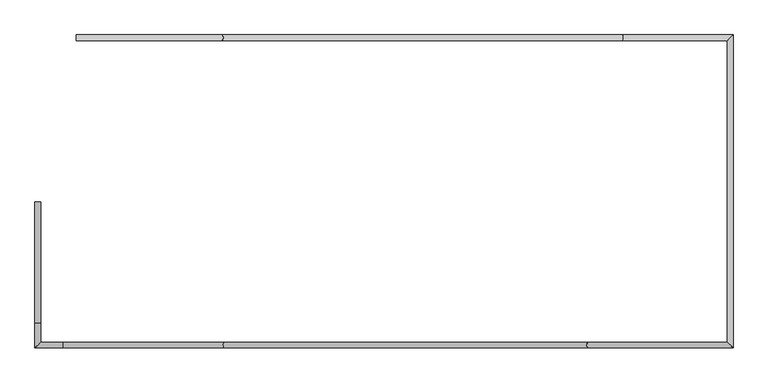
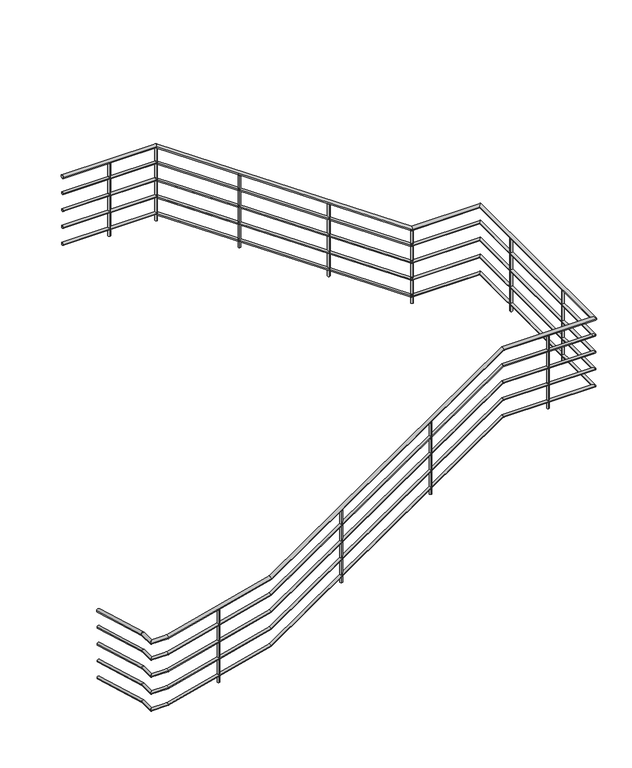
"""IFC4 building model written with IfcOpenShell, lengths in millimetres: railing geometry, r パイプ H900."""

from ifc_helpers import new_model, si_unit, point, frame, frame_2d, origin, place, context, project, spatial, circle_curve, ellipse_curve, trimmed, segment, composite_curve, outline, extrude, source, transform, mapped, element, save
from ifc_brep_helpers import plane_surface, cylinder_surface, advanced_brep


def railing_7acc2935(model_context):
    return source(origin(), model_context, "Body", "SolidModel", [
        advanced_brep(
        [(-3200.9784025, 14849.6868987, 1159.2096895), (-3240.9784025, 14849.6868987, 1159.2096895), (-3200.9784025, 13983.2318837, 1405.1860651), (-3240.9784025, 13983.2318837, 1405.1860651), (-3200.9784025, 13844.6868987, 1405.1860651), (-3240.9784025, 13804.6868987, 1405.1860651), (-3040.287411, 13844.6868987, 1405.1860651), (-3040.287411, 13804.6868987, 1405.1860651), (-1887.5349177, 13844.6868987, 1701.5202767), (-1887.5349177, 13804.6868987, 1701.5202767), (710.2691271, 13844.6868987, 3500.0), (710.2691271, 13804.6868987, 3500.0), (1709.0215975, 13844.6868987, 3500.0), (1749.0215975, 13804.6868987, 3500.0), (1709.0215975, 16004.6868987, 3500.0), (1749.0215975, 16044.6868987, 3500.0), (957.7740679, 16004.6868987, 3500.0), (957.7740679, 16044.6868987, 3500.0), (-1902.2259321, 16004.6868987, 5480.0), (-1902.2259321, 16044.6868987, 5480.0), (-2945.9784025, 16004.6868987, 5480.0), (-2945.9784025, 16044.6868987, 5480.0)],
        [
            (0, 1, ellipse_curve(frame((-3220.9784025, 14849.6868987, 1159.2096895), z_axis=(0.0, 1.0, 0.0), x_axis=(0.0, 0.0, -0.9999999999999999)), 20.7903105, 20.0)),
            (1, 0, ellipse_curve(frame((-3220.9784025, 14849.6868987, 1159.2096895), z_axis=(0.0, 1.0, 0.0), x_axis=(0.0, 0.0, -0.9999999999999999)), 20.7903105, 20.0)),
            (0, 2),
            (2, 3, ellipse_curve(frame((-3220.9784025, 13983.2318837, 1405.1860651), z_axis=(0.0, 0.9904510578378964, -0.1378647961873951), x_axis=(0.0, -0.1378647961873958, -0.9904510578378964)), 20.1928201, 20.0)),
            (3, 1),
            (3, 2, ellipse_curve(frame((-3220.9784025, 13983.2318837, 1405.1860651), z_axis=(0.0, 0.9904510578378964, -0.1378647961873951), x_axis=(0.0, -0.1378647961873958, -0.9904510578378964)), 20.1928201, 20.0)),
            (2, 4),
            (4, 5, ellipse_curve(frame((-3220.9784025, 13824.6868987, 1405.1860651), z_axis=(-0.7071067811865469, 0.7071067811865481, 0.0), x_axis=(0.7071067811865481, 0.7071067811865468, 0.0)), 28.2842712, 20.0)),
            (5, 3),
            (5, 4, ellipse_curve(frame((-3220.9784025, 13824.6868987, 1405.1860651), z_axis=(-0.7071067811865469, 0.7071067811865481, 0.0), x_axis=(0.7071067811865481, 0.7071067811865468, 0.0)), 28.2842712, 20.0)),
            (4, 6),
            (6, 7, ellipse_curve(frame((-3040.287411, 13824.6868987, 1405.1860651), z_axis=(-0.9920964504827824, 0.0, -0.12547761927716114), x_axis=(-0.12547761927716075, 0.0, 0.9920964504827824)), 20.1593303, 20.0)),
            (7, 5),
            (7, 6, ellipse_curve(frame((-3040.287411, 13824.6868987, 1405.1860651), z_axis=(-0.9920964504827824, 0.0, -0.12547761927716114), x_axis=(-0.12547761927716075, 0.0, 0.9920964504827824)), 20.1593303, 20.0)),
            (6, 8),
            (8, 9, ellipse_curve(frame((-1887.5349177, 13824.6868987, 1701.5202767), z_axis=(-0.9095561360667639, 0.0, -0.41558108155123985), x_axis=(-0.415581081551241, 0.0, 0.9095561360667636)), 20.3172983, 20.0)),
            (9, 7),
            (9, 8, ellipse_curve(frame((-1887.5349177, 13824.6868987, 1701.5202767), z_axis=(-0.9095561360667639, 0.0, -0.41558108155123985), x_axis=(-0.415581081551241, 0.0, 0.9095561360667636)), 20.3172983, 20.0)),
            (8, 10),
            (10, 11, ellipse_curve(frame((710.2691271, 13824.6868987, 3500.0), z_axis=(-0.9545135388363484, 0.0, -0.29816757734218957), x_axis=(0.2981675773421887, 0.0, -0.9545135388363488)), 20.9530815, 20.0)),
            (11, 9),
            (11, 10, ellipse_curve(frame((710.2691271, 13824.6868987, 3500.0), z_axis=(-0.9545135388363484, 0.0, -0.29816757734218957), x_axis=(0.2981675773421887, 0.0, -0.9545135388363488)), 20.9530815, 20.0)),
            (10, 12),
            (12, 13, ellipse_curve(frame((1729.0215975, 13824.6868987, 3500.0), z_axis=(-0.7071067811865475, -0.7071067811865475, 0.0), x_axis=(-0.7071067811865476, 0.7071067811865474, 0.0)), 28.2842712, 20.0)),
            (13, 11),
            (13, 12, ellipse_curve(frame((1729.0215975, 13824.6868987, 3500.0), z_axis=(-0.7071067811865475, -0.7071067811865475, 0.0), x_axis=(-0.7071067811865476, 0.7071067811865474, 0.0)), 28.2842712, 20.0)),
            (12, 14),
            (14, 15, ellipse_curve(frame((1729.0215975, 16024.6868987, 3500.0), z_axis=(0.7071067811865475, -0.7071067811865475, 0.0), x_axis=(-0.7071067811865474, -0.7071067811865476, 0.0)), 28.2842712, 20.0)),
            (15, 13),
            (15, 14, ellipse_curve(frame((1729.0215975, 16024.6868987, 3500.0), z_axis=(0.7071067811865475, -0.7071067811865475, 0.0), x_axis=(-0.7071067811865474, -0.7071067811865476, 0.0)), 28.2842712, 20.0)),
            (14, 16),
            (16, 17, ellipse_curve(frame((957.7740679, 16024.6868987, 3500.0), z_axis=(0.9545135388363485, 0.0, -0.29816757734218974), x_axis=(0.2981675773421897, 0.0, 0.9545135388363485)), 20.9530815, 20.0)),
            (17, 15),
            (17, 16, ellipse_curve(frame((957.7740679, 16024.6868987, 3500.0), z_axis=(0.9545135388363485, 0.0, -0.29816757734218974), x_axis=(0.2981675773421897, 0.0, 0.9545135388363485)), 20.9530815, 20.0)),
            (16, 18),
            (18, 19, ellipse_curve(frame((-1902.2259321, 16024.6868987, 5480.0), z_axis=(0.9545135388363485, 0.0, -0.29816757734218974), x_axis=(-0.2981675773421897, 0.0, -0.9545135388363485)), 20.9530815, 20.0)),
            (19, 17),
            (19, 18, ellipse_curve(frame((-1902.2259321, 16024.6868987, 5480.0), z_axis=(0.9545135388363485, 0.0, -0.29816757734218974), x_axis=(-0.2981675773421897, 0.0, -0.9545135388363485)), 20.9530815, 20.0)),
            (20, 21, circle_curve(frame((-2945.9784025, 16024.6868987, 5480.0), z_axis=(-1.0, 0.0, 0.0), x_axis=(0.0, 1.0, 0.0)), 20.0)),
            (21, 20, circle_curve(frame((-2945.9784025, 16024.6868987, 5480.0), z_axis=(-1.0, 0.0, 0.0), x_axis=(0.0, 1.0, 0.0)), 20.0)),
            (18, 20),
            (21, 19),
        ],
        [
            plane_surface(frame((-3220.9784025, 14849.6868987, 1180.0), z_axis=(0.0, 1.0, 0.0), x_axis=(0.0, 0.0, -1.0))),
            cylinder_surface(frame((-3220.9784025, 14844.2249654, 1160.7602681), z_axis=(0.0, 0.961986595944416, -0.27309666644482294), x_axis=(-1.0, 0.0, 0.0)), 20.0),
            cylinder_surface(frame((-3220.9784025, 13986.0157627, 1405.1860651), z_axis=(0.0, 1.0, 0.0), x_axis=(-1.0, 0.0, 0.0)), 20.0),
            cylinder_surface(frame((-3220.9784025, 13824.6868987, 1405.1860651), z_axis=(-1.0, 0.0, 0.0), x_axis=(0.0, -1.0, 0.0)), 20.0),
            cylinder_surface(frame((-3037.8375197, 13824.6868987, 1405.8158504), z_axis=(-0.9685107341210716, 0.0, -0.24897180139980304), x_axis=(0.0, -1.0, 0.0)), 20.0),
            cylinder_surface(frame((-1884.5942029, 13824.6868987, 1703.5561562), z_axis=(-0.8221921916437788, 0.0, -0.5692099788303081), x_axis=(0.0, -1.0, 0.0)), 20.0),
            cylinder_surface(frame((704.0215975, 13824.6868987, 3500.0), z_axis=(-1.0, 0.0, 0.0), x_axis=(0.0, -1.0, 0.0)), 20.0),
            cylinder_surface(frame((1729.0215975, 13824.6868987, 3500.0), z_axis=(0.0, -1.0, 0.0), x_axis=(1.0, 0.0, 0.0)), 20.0),
            cylinder_surface(frame((1729.0215975, 16024.6868987, 3500.0), z_axis=(1.0, 0.0, 0.0), x_axis=(0.0, 1.0, 0.0)), 20.0),
            cylinder_surface(frame((952.6373979, 16024.6868987, 3503.5561562), z_axis=(0.8221921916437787, 0.0, -0.5692099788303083), x_axis=(0.0, 1.0, 0.0)), 20.0),
            plane_surface(frame((-2945.9784025, 16024.6868987, 5500.0), z_axis=(-1.0, 0.0, 0.0), x_axis=(0.0, -1.0, 0.0))),
            cylinder_surface(frame((-1895.9784025, 16024.6868987, 5480.0), z_axis=(1.0, 0.0, 0.0), x_axis=(0.0, 1.0, 0.0)), 20.0),
        ],
        [
            (0, [[1, 2]]),
            (1, [[-1, 3, 4, 5]]),
            (1, [[-2, -5, 6, -3]]),
            (2, [[-4, 7, 8, 9]]),
            (2, [[-6, -9, 10, -7]]),
            (3, [[-8, 11, 12, 13]]),
            (3, [[-10, -13, 14, -11]]),
            (4, [[-12, 15, 16, 17]]),
            (4, [[-14, -17, 18, -15]]),
            (5, [[-16, 19, 20, 21]]),
            (5, [[-18, -21, 22, -19]]),
            (6, [[-20, 23, 24, 25]]),
            (6, [[-22, -25, 26, -23]]),
            (7, [[-24, 27, 28, 29]]),
            (7, [[-26, -29, 30, -27]]),
            (8, [[-28, 31, 32, 33]]),
            (8, [[-30, -33, 34, -31]]),
            (9, [[-32, 35, 36, 37]]),
            (9, [[-34, -37, 38, -35]]),
            (10, [[39, 40]]),
            (11, [[-36, 41, -40, 42]]),
            (11, [[-38, -42, -39, -41]]),
        ],
    ),
        advanced_brep(
        [(-3205.9784025, 14849.6868987, 964.4072671), (-3235.9784025, 14849.6868987, 964.4072671), (-3205.9784025, 13983.9278534, 1210.1860651), (-3235.9784025, 13983.9278534, 1210.1860651), (-3205.9784025, 13839.6868987, 1210.1860651), (-3235.9784025, 13809.6868987, 1210.1860651), (-3040.9197972, 13839.6868987, 1210.1860651), (-3040.9197972, 13809.6868987, 1210.1860651), (-1889.6457889, 13839.6868987, 1506.1402075), (-1889.6457889, 13809.6868987, 1506.1402075), (708.7072447, 13839.6868987, 3305.0), (708.7072447, 13809.6868987, 3305.0), (1714.0215975, 13839.6868987, 3305.0), (1744.0215975, 13809.6868987, 3305.0), (1714.0215975, 16009.6868987, 3305.0), (1744.0215975, 16039.6868987, 3305.0), (959.3359503, 16009.6868987, 3305.0), (959.3359503, 16039.6868987, 3305.0), (-1900.6640497, 16009.6868987, 5285.0), (-1900.6640497, 16039.6868987, 5285.0), (-2945.9784025, 16009.6868987, 5285.0), (-2945.9784025, 16039.6868987, 5285.0)],
        [
            (0, 1, ellipse_curve(frame((-3220.9784025, 14849.6868987, 964.4072671), z_axis=(0.0, 1.0, 0.0), x_axis=(0.0, 0.0, -0.9999999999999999)), 15.5927329, 15.0)),
            (1, 0, ellipse_curve(frame((-3220.9784025, 14849.6868987, 964.4072671), z_axis=(0.0, 1.0, 0.0), x_axis=(0.0, 0.0, -0.9999999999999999)), 15.5927329, 15.0)),
            (0, 2),
            (2, 3, ellipse_curve(frame((-3220.9784025, 13983.9278534, 1210.1860651), z_axis=(0.0, 0.9904510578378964, -0.1378647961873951), x_axis=(0.0, -0.1378647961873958, -0.9904510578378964)), 15.1446151, 15.0)),
            (3, 1),
            (3, 2, ellipse_curve(frame((-3220.9784025, 13983.9278534, 1210.1860651), z_axis=(0.0, 0.9904510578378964, -0.1378647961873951), x_axis=(0.0, -0.1378647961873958, -0.9904510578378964)), 15.1446151, 15.0)),
            (2, 4),
            (4, 5, ellipse_curve(frame((-3220.9784025, 13824.6868987, 1210.1860651), z_axis=(-0.7071067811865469, 0.7071067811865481, 0.0), x_axis=(0.7071067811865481, 0.7071067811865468, 0.0)), 21.2132034, 15.0)),
            (5, 3),
            (5, 4, ellipse_curve(frame((-3220.9784025, 13824.6868987, 1210.1860651), z_axis=(-0.7071067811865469, 0.7071067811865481, 0.0), x_axis=(0.7071067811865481, 0.7071067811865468, 0.0)), 21.2132034, 15.0)),
            (4, 6),
            (6, 7, ellipse_curve(frame((-3040.9197972, 13824.6868987, 1210.1860651), z_axis=(-0.9920964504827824, 0.0, -0.12547761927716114), x_axis=(-0.12547761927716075, 0.0, 0.9920964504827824)), 15.1194977, 15.0)),
            (7, 5),
            (7, 6, ellipse_curve(frame((-3040.9197972, 13824.6868987, 1210.1860651), z_axis=(-0.9920964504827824, 0.0, -0.12547761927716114), x_axis=(-0.12547761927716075, 0.0, 0.9920964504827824)), 15.1194977, 15.0)),
            (6, 8),
            (8, 9, ellipse_curve(frame((-1889.6457889, 13824.6868987, 1506.1402075), z_axis=(-0.9095561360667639, 0.0, -0.41558108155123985), x_axis=(-0.415581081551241, 0.0, 0.9095561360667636)), 15.2379737, 15.0)),
            (9, 7),
            (9, 8, ellipse_curve(frame((-1889.6457889, 13824.6868987, 1506.1402075), z_axis=(-0.9095561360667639, 0.0, -0.41558108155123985), x_axis=(-0.415581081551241, 0.0, 0.9095561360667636)), 15.2379737, 15.0)),
            (8, 10),
            (10, 11, ellipse_curve(frame((708.7072447, 13824.6868987, 3305.0), z_axis=(-0.9545135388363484, 0.0, -0.29816757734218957), x_axis=(0.2981675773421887, 0.0, -0.9545135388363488)), 15.7148111, 15.0)),
            (11, 9),
            (11, 10, ellipse_curve(frame((708.7072447, 13824.6868987, 3305.0), z_axis=(-0.9545135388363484, 0.0, -0.29816757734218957), x_axis=(0.2981675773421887, 0.0, -0.9545135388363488)), 15.7148111, 15.0)),
            (10, 12),
            (12, 13, ellipse_curve(frame((1729.0215975, 13824.6868987, 3305.0), z_axis=(-0.7071067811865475, -0.7071067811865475, 0.0), x_axis=(-0.7071067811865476, 0.7071067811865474, 0.0)), 21.2132034, 15.0)),
            (13, 11),
            (13, 12, ellipse_curve(frame((1729.0215975, 13824.6868987, 3305.0), z_axis=(-0.7071067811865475, -0.7071067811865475, 0.0), x_axis=(-0.7071067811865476, 0.7071067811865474, 0.0)), 21.2132034, 15.0)),
            (12, 14),
            (14, 15, ellipse_curve(frame((1729.0215975, 16024.6868987, 3305.0), z_axis=(0.7071067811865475, -0.7071067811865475, 0.0), x_axis=(-0.7071067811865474, -0.7071067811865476, 0.0)), 21.2132034, 15.0)),
            (15, 13),
            (15, 14, ellipse_curve(frame((1729.0215975, 16024.6868987, 3305.0), z_axis=(0.7071067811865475, -0.7071067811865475, 0.0), x_axis=(-0.7071067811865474, -0.7071067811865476, 0.0)), 21.2132034, 15.0)),
            (14, 16),
            (16, 17, ellipse_curve(frame((959.3359503, 16024.6868987, 3305.0), z_axis=(0.9545135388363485, 0.0, -0.29816757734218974), x_axis=(0.2981675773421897, 0.0, 0.9545135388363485)), 15.7148111, 15.0)),
            (17, 15),
            (17, 16, ellipse_curve(frame((959.3359503, 16024.6868987, 3305.0), z_axis=(0.9545135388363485, 0.0, -0.29816757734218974), x_axis=(0.2981675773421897, 0.0, 0.9545135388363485)), 15.7148111, 15.0)),
            (16, 18),
            (18, 19, ellipse_curve(frame((-1900.6640497, 16024.6868987, 5285.0), z_axis=(0.9545135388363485, 0.0, -0.29816757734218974), x_axis=(-0.2981675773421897, 0.0, -0.9545135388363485)), 15.7148111, 15.0)),
            (19, 17),
            (19, 18, ellipse_curve(frame((-1900.6640497, 16024.6868987, 5285.0), z_axis=(0.9545135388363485, 0.0, -0.29816757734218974), x_axis=(-0.2981675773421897, 0.0, -0.9545135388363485)), 15.7148111, 15.0)),
            (20, 21, circle_curve(frame((-2945.9784025, 16024.6868987, 5285.0), z_axis=(-1.0, 0.0, 0.0), x_axis=(0.0, 1.0, 0.0)), 15.0)),
            (21, 20, circle_curve(frame((-2945.9784025, 16024.6868987, 5285.0), z_axis=(-1.0, 0.0, 0.0), x_axis=(0.0, 1.0, 0.0)), 15.0)),
            (18, 20),
            (21, 19),
        ],
        [
            plane_surface(frame((-3220.9784025, 14849.6868987, 980.0), z_axis=(0.0, 1.0, 0.0), x_axis=(0.0, 0.0, -1.0))),
            cylinder_surface(frame((-3220.9784025, 14845.5904487, 965.5702011), z_axis=(0.0, 0.961986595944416, -0.27309666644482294), x_axis=(-1.0, 0.0, 0.0)), 15.0),
            cylinder_surface(frame((-3220.9784025, 13986.0157627, 1210.1860651), z_axis=(0.0, 1.0, 0.0), x_axis=(-1.0, 0.0, 0.0)), 15.0),
            cylinder_surface(frame((-3220.9784025, 13824.6868987, 1210.1860651), z_axis=(-1.0, 0.0, 0.0), x_axis=(0.0, -1.0, 0.0)), 15.0),
            cylinder_surface(frame((-3039.0823787, 13824.6868987, 1210.6584041), z_axis=(-0.9685107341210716, 0.0, -0.24897180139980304), x_axis=(0.0, -1.0, 0.0)), 15.0),
            cylinder_surface(frame((-1887.4402528, 13824.6868987, 1507.6671171), z_axis=(-0.8221921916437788, 0.0, -0.5692099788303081), x_axis=(0.0, -1.0, 0.0)), 15.0),
            cylinder_surface(frame((704.0215975, 13824.6868987, 3305.0), z_axis=(-1.0, 0.0, 0.0), x_axis=(0.0, -1.0, 0.0)), 15.0),
            cylinder_surface(frame((1729.0215975, 13824.6868987, 3305.0), z_axis=(0.0, -1.0, 0.0), x_axis=(1.0, 0.0, 0.0)), 15.0),
            cylinder_surface(frame((1729.0215975, 16024.6868987, 3305.0), z_axis=(1.0, 0.0, 0.0), x_axis=(0.0, 1.0, 0.0)), 15.0),
            cylinder_surface(frame((955.4834478, 16024.6868987, 3307.6671171), z_axis=(0.8221921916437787, 0.0, -0.5692099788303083), x_axis=(0.0, 1.0, 0.0)), 15.0),
            plane_surface(frame((-2945.9784025, 16024.6868987, 5300.0), z_axis=(-1.0, 0.0, 0.0), x_axis=(0.0, -1.0, 0.0))),
            cylinder_surface(frame((-1895.9784025, 16024.6868987, 5285.0), z_axis=(1.0, 0.0, 0.0), x_axis=(0.0, 1.0, 0.0)), 15.0),
        ],
        [
            (0, [[1, 2]]),
            (1, [[-1, 3, 4, 5]]),
            (1, [[-2, -5, 6, -3]]),
            (2, [[-4, 7, 8, 9]]),
            (2, [[-6, -9, 10, -7]]),
            (3, [[-8, 11, 12, 13]]),
            (3, [[-10, -13, 14, -11]]),
            (4, [[-12, 15, 16, 17]]),
            (4, [[-14, -17, 18, -15]]),
            (5, [[-16, 19, 20, 21]]),
            (5, [[-18, -21, 22, -19]]),
            (6, [[-20, 23, 24, 25]]),
            (6, [[-22, -25, 26, -23]]),
            (7, [[-24, 27, 28, 29]]),
            (7, [[-26, -29, 30, -27]]),
            (8, [[-28, 31, 32, 33]]),
            (8, [[-30, -33, 34, -31]]),
            (9, [[-32, 35, 36, 37]]),
            (9, [[-34, -37, 38, -35]]),
            (10, [[39, 40]]),
            (11, [[-36, 41, -40, 42]]),
            (11, [[-38, -42, -39, -41]]),
        ],
    ),
        advanced_brep(
        [(-3205.9784025, 14849.6868987, 764.4072671), (-3235.9784025, 14849.6868987, 764.4072671), (-3205.9784025, 13983.9278534, 1010.1860651), (-3235.9784025, 13983.9278534, 1010.1860651), (-3205.9784025, 13839.6868987, 1010.1860651), (-3235.9784025, 13809.6868987, 1010.1860651), (-3040.9197972, 13839.6868987, 1010.1860651), (-3040.9197972, 13809.6868987, 1010.1860651), (-1889.6457889, 13839.6868987, 1306.1402075), (-1889.6457889, 13809.6868987, 1306.1402075), (708.7072447, 13839.6868987, 3105.0), (708.7072447, 13809.6868987, 3105.0), (1714.0215975, 13839.6868987, 3105.0), (1744.0215975, 13809.6868987, 3105.0), (1714.0215975, 16009.6868987, 3105.0), (1744.0215975, 16039.6868987, 3105.0), (959.3359503, 16009.6868987, 3105.0), (959.3359503, 16039.6868987, 3105.0), (-1900.6640497, 16009.6868987, 5085.0), (-1900.6640497, 16039.6868987, 5085.0), (-2945.9784025, 16009.6868987, 5085.0), (-2945.9784025, 16039.6868987, 5085.0)],
        [
            (0, 1, ellipse_curve(frame((-3220.9784025, 14849.6868987, 764.4072671), z_axis=(0.0, 1.0, 0.0), x_axis=(0.0, 0.0, -1.0)), 15.5927329, 15.0)),
            (1, 0, ellipse_curve(frame((-3220.9784025, 14849.6868987, 764.4072671), z_axis=(0.0, 1.0, 0.0), x_axis=(0.0, 0.0, -1.0)), 15.5927329, 15.0)),
            (0, 2),
            (2, 3, ellipse_curve(frame((-3220.9784025, 13983.9278534, 1010.1860651), z_axis=(0.0, 0.9904510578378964, -0.13786479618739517), x_axis=(0.0, -0.13786479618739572, -0.9904510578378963)), 15.1446151, 15.0)),
            (3, 1),
            (3, 2, ellipse_curve(frame((-3220.9784025, 13983.9278534, 1010.1860651), z_axis=(0.0, 0.9904510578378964, -0.13786479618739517), x_axis=(0.0, -0.13786479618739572, -0.9904510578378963)), 15.1446151, 15.0)),
            (2, 4),
            (4, 5, ellipse_curve(frame((-3220.9784025, 13824.6868987, 1010.1860651), z_axis=(-0.7071067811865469, 0.7071067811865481, 0.0), x_axis=(0.7071067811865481, 0.7071067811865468, 0.0)), 21.2132034, 15.0)),
            (5, 3),
            (5, 4, ellipse_curve(frame((-3220.9784025, 13824.6868987, 1010.1860651), z_axis=(-0.7071067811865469, 0.7071067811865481, 0.0), x_axis=(0.7071067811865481, 0.7071067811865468, 0.0)), 21.2132034, 15.0)),
            (4, 6),
            (6, 7, ellipse_curve(frame((-3040.9197972, 13824.6868987, 1010.1860651), z_axis=(-0.9920964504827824, 0.0, -0.12547761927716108), x_axis=(-0.1254776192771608, 0.0, 0.9920964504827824)), 15.1194977, 15.0)),
            (7, 5),
            (7, 6, ellipse_curve(frame((-3040.9197972, 13824.6868987, 1010.1860651), z_axis=(-0.9920964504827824, 0.0, -0.12547761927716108), x_axis=(-0.1254776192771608, 0.0, 0.9920964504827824)), 15.1194977, 15.0)),
            (6, 8),
            (8, 9, ellipse_curve(frame((-1889.6457889, 13824.6868987, 1306.1402075), z_axis=(-0.9095561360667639, 0.0, -0.41558108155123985), x_axis=(-0.4155810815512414, 0.0, 0.9095561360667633)), 15.2379737, 15.0)),
            (9, 7),
            (9, 8, ellipse_curve(frame((-1889.6457889, 13824.6868987, 1306.1402075), z_axis=(-0.9095561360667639, 0.0, -0.41558108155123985), x_axis=(-0.4155810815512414, 0.0, 0.9095561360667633)), 15.2379737, 15.0)),
            (8, 10),
            (10, 11, ellipse_curve(frame((708.7072447, 13824.6868987, 3105.0), z_axis=(-0.9545135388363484, 0.0, -0.2981675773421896), x_axis=(0.2981675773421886, 0.0, -0.9545135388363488)), 15.7148111, 15.0)),
            (11, 9),
            (11, 10, ellipse_curve(frame((708.7072447, 13824.6868987, 3105.0), z_axis=(-0.9545135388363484, 0.0, -0.2981675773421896), x_axis=(0.2981675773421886, 0.0, -0.9545135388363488)), 15.7148111, 15.0)),
            (10, 12),
            (12, 13, ellipse_curve(frame((1729.0215975, 13824.6868987, 3105.0), z_axis=(-0.7071067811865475, -0.7071067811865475, 0.0), x_axis=(-0.7071067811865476, 0.7071067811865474, 0.0)), 21.2132034, 15.0)),
            (13, 11),
            (13, 12, ellipse_curve(frame((1729.0215975, 13824.6868987, 3105.0), z_axis=(-0.7071067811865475, -0.7071067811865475, 0.0), x_axis=(-0.7071067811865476, 0.7071067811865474, 0.0)), 21.2132034, 15.0)),
            (12, 14),
            (14, 15, ellipse_curve(frame((1729.0215975, 16024.6868987, 3105.0), z_axis=(0.7071067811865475, -0.7071067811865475, 0.0), x_axis=(-0.7071067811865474, -0.7071067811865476, 0.0)), 21.2132034, 15.0)),
            (15, 13),
            (15, 14, ellipse_curve(frame((1729.0215975, 16024.6868987, 3105.0), z_axis=(0.7071067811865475, -0.7071067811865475, 0.0), x_axis=(-0.7071067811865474, -0.7071067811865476, 0.0)), 21.2132034, 15.0)),
            (14, 16),
            (16, 17, ellipse_curve(frame((959.3359503, 16024.6868987, 3105.0), z_axis=(0.9545135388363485, 0.0, -0.29816757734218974), x_axis=(0.2981675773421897, 0.0, 0.9545135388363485)), 15.7148111, 15.0)),
            (17, 15),
            (17, 16, ellipse_curve(frame((959.3359503, 16024.6868987, 3105.0), z_axis=(0.9545135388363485, 0.0, -0.29816757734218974), x_axis=(0.2981675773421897, 0.0, 0.9545135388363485)), 15.7148111, 15.0)),
            (16, 18),
            (18, 19, ellipse_curve(frame((-1900.6640497, 16024.6868987, 5085.0), z_axis=(0.9545135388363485, 0.0, -0.29816757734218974), x_axis=(-0.2981675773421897, 0.0, -0.9545135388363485)), 15.7148111, 15.0)),
            (19, 17),
            (19, 18, ellipse_curve(frame((-1900.6640497, 16024.6868987, 5085.0), z_axis=(0.9545135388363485, 0.0, -0.29816757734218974), x_axis=(-0.2981675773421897, 0.0, -0.9545135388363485)), 15.7148111, 15.0)),
            (20, 21, circle_curve(frame((-2945.9784025, 16024.6868987, 5085.0), z_axis=(-1.0, 0.0, 0.0), x_axis=(0.0, 1.0, 0.0)), 15.0)),
            (21, 20, circle_curve(frame((-2945.9784025, 16024.6868987, 5085.0), z_axis=(-1.0, 0.0, 0.0), x_axis=(0.0, 1.0, 0.0)), 15.0)),
            (18, 20),
            (21, 19),
        ],
        [
            plane_surface(frame((-3220.9784025, 14849.6868987, 780.0), z_axis=(0.0, 1.0, 0.0), x_axis=(0.0, 0.0, -1.0))),
            cylinder_surface(frame((-3220.9784025, 14845.5904487, 765.5702011), z_axis=(0.0, 0.961986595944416, -0.27309666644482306), x_axis=(-1.0, 0.0, 0.0)), 15.0),
            cylinder_surface(frame((-3220.9784025, 13986.0157627, 1010.1860651), z_axis=(0.0, 1.0, 0.0), x_axis=(-1.0, 0.0, 0.0)), 15.0),
            cylinder_surface(frame((-3220.9784025, 13824.6868987, 1010.1860651), z_axis=(-1.0, 0.0, 0.0), x_axis=(0.0, -1.0, 0.0)), 15.0),
            cylinder_surface(frame((-3039.0823787, 13824.6868987, 1010.6584041), z_axis=(-0.9685107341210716, 0.0, -0.24897180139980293), x_axis=(0.0, -1.0, 0.0)), 15.0),
            cylinder_surface(frame((-1887.4402528, 13824.6868987, 1307.6671171), z_axis=(-0.8221921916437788, 0.0, -0.5692099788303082), x_axis=(0.0, -1.0, 0.0)), 15.0),
            cylinder_surface(frame((704.0215975, 13824.6868987, 3105.0), z_axis=(-1.0, 0.0, 0.0), x_axis=(0.0, -1.0, 0.0)), 15.0),
            cylinder_surface(frame((1729.0215975, 13824.6868987, 3105.0), z_axis=(0.0, -1.0, 0.0), x_axis=(1.0, 0.0, 0.0)), 15.0),
            cylinder_surface(frame((1729.0215975, 16024.6868987, 3105.0), z_axis=(1.0, 0.0, 0.0), x_axis=(0.0, 1.0, 0.0)), 15.0),
            cylinder_surface(frame((955.4834478, 16024.6868987, 3107.6671171), z_axis=(0.8221921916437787, 0.0, -0.5692099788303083), x_axis=(0.0, 1.0, 0.0)), 15.0),
            plane_surface(frame((-2945.9784025, 16024.6868987, 5100.0), z_axis=(-1.0, 0.0, 0.0), x_axis=(0.0, -1.0, 0.0))),
            cylinder_surface(frame((-1895.9784025, 16024.6868987, 5085.0), z_axis=(1.0, 0.0, 0.0), x_axis=(0.0, 1.0, 0.0)), 15.0),
        ],
        [
            (0, [[1, 2]]),
            (1, [[-1, 3, 4, 5]]),
            (1, [[-2, -5, 6, -3]]),
            (2, [[-4, 7, 8, 9]]),
            (2, [[-6, -9, 10, -7]]),
            (3, [[-8, 11, 12, 13]]),
            (3, [[-10, -13, 14, -11]]),
            (4, [[-12, 15, 16, 17]]),
            (4, [[-14, -17, 18, -15]]),
            (5, [[-16, 19, 20, 21]]),
            (5, [[-18, -21, 22, -19]]),
            (6, [[-20, 23, 24, 25]]),
            (6, [[-22, -25, 26, -23]]),
            (7, [[-24, 27, 28, 29]]),
            (7, [[-26, -29, 30, -27]]),
            (8, [[-28, 31, 32, 33]]),
            (8, [[-30, -33, 34, -31]]),
            (9, [[-32, 35, 36, 37]]),
            (9, [[-34, -37, 38, -35]]),
            (10, [[39, 40]]),
            (11, [[-36, 41, -40, 42]]),
            (11, [[-38, -42, -39, -41]]),
        ],
    ),
        advanced_brep(
        [(-3205.9784025, 14849.6868987, 564.4072671), (-3235.9784025, 14849.6868987, 564.4072671), (-3205.9784025, 13983.9278534, 810.1860651), (-3235.9784025, 13983.9278534, 810.1860651), (-3205.9784025, 13839.6868987, 810.1860651), (-3235.9784025, 13809.6868987, 810.1860651), (-3040.9197972, 13839.6868987, 810.1860651), (-3040.9197972, 13809.6868987, 810.1860651), (-1889.6457889, 13839.6868987, 1106.1402075), (-1889.6457889, 13809.6868987, 1106.1402075), (708.7072447, 13839.6868987, 2905.0), (708.7072447, 13809.6868987, 2905.0), (1714.0215975, 13839.6868987, 2905.0), (1744.0215975, 13809.6868987, 2905.0), (1714.0215975, 16009.6868987, 2905.0), (1744.0215975, 16039.6868987, 2905.0), (959.3359503, 16009.6868987, 2905.0), (959.3359503, 16039.6868987, 2905.0), (-1900.6640497, 16009.6868987, 4885.0), (-1900.6640497, 16039.6868987, 4885.0), (-2945.9784025, 16009.6868987, 4885.0), (-2945.9784025, 16039.6868987, 4885.0)],
        [
            (0, 1, ellipse_curve(frame((-3220.9784025, 14849.6868987, 564.4072671), z_axis=(0.0, 1.0, 0.0), x_axis=(0.0, 0.0, -1.0)), 15.5927329, 15.0)),
            (1, 0, ellipse_curve(frame((-3220.9784025, 14849.6868987, 564.4072671), z_axis=(0.0, 1.0, 0.0), x_axis=(0.0, 0.0, -1.0)), 15.5927329, 15.0)),
            (0, 2),
            (2, 3, ellipse_curve(frame((-3220.9784025, 13983.9278534, 810.1860651), z_axis=(0.0, 0.9904510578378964, -0.13786479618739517), x_axis=(0.0, -0.13786479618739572, -0.9904510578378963)), 15.1446151, 15.0)),
            (3, 1),
            (3, 2, ellipse_curve(frame((-3220.9784025, 13983.9278534, 810.1860651), z_axis=(0.0, 0.9904510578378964, -0.13786479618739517), x_axis=(0.0, -0.13786479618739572, -0.9904510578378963)), 15.1446151, 15.0)),
            (2, 4),
            (4, 5, ellipse_curve(frame((-3220.9784025, 13824.6868987, 810.1860651), z_axis=(-0.7071067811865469, 0.7071067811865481, 0.0), x_axis=(0.7071067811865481, 0.7071067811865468, 0.0)), 21.2132034, 15.0)),
            (5, 3),
            (5, 4, ellipse_curve(frame((-3220.9784025, 13824.6868987, 810.1860651), z_axis=(-0.7071067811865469, 0.7071067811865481, 0.0), x_axis=(0.7071067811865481, 0.7071067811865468, 0.0)), 21.2132034, 15.0)),
            (4, 6),
            (6, 7, ellipse_curve(frame((-3040.9197972, 13824.6868987, 810.1860651), z_axis=(-0.9920964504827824, 0.0, -0.12547761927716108), x_axis=(-0.1254776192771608, 0.0, 0.9920964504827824)), 15.1194977, 15.0)),
            (7, 5),
            (7, 6, ellipse_curve(frame((-3040.9197972, 13824.6868987, 810.1860651), z_axis=(-0.9920964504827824, 0.0, -0.12547761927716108), x_axis=(-0.1254776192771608, 0.0, 0.9920964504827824)), 15.1194977, 15.0)),
            (6, 8),
            (8, 9, ellipse_curve(frame((-1889.6457889, 13824.6868987, 1106.1402075), z_axis=(-0.9095561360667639, 0.0, -0.41558108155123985), x_axis=(-0.4155810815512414, 0.0, 0.9095561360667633)), 15.2379737, 15.0)),
            (9, 7),
            (9, 8, ellipse_curve(frame((-1889.6457889, 13824.6868987, 1106.1402075), z_axis=(-0.9095561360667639, 0.0, -0.41558108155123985), x_axis=(-0.4155810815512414, 0.0, 0.9095561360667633)), 15.2379737, 15.0)),
            (8, 10),
            (10, 11, ellipse_curve(frame((708.7072447, 13824.6868987, 2905.0), z_axis=(-0.9545135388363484, 0.0, -0.2981675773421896), x_axis=(0.2981675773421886, 0.0, -0.9545135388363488)), 15.7148111, 15.0)),
            (11, 9),
            (11, 10, ellipse_curve(frame((708.7072447, 13824.6868987, 2905.0), z_axis=(-0.9545135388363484, 0.0, -0.2981675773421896), x_axis=(0.2981675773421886, 0.0, -0.9545135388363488)), 15.7148111, 15.0)),
            (10, 12),
            (12, 13, ellipse_curve(frame((1729.0215975, 13824.6868987, 2905.0), z_axis=(-0.7071067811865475, -0.7071067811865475, 0.0), x_axis=(-0.7071067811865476, 0.7071067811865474, 0.0)), 21.2132034, 15.0)),
            (13, 11),
            (13, 12, ellipse_curve(frame((1729.0215975, 13824.6868987, 2905.0), z_axis=(-0.7071067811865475, -0.7071067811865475, 0.0), x_axis=(-0.7071067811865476, 0.7071067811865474, 0.0)), 21.2132034, 15.0)),
            (12, 14),
            (14, 15, ellipse_curve(frame((1729.0215975, 16024.6868987, 2905.0), z_axis=(0.7071067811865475, -0.7071067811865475, 0.0), x_axis=(-0.7071067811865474, -0.7071067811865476, 0.0)), 21.2132034, 15.0)),
            (15, 13),
            (15, 14, ellipse_curve(frame((1729.0215975, 16024.6868987, 2905.0), z_axis=(0.7071067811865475, -0.7071067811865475, 0.0), x_axis=(-0.7071067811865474, -0.7071067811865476, 0.0)), 21.2132034, 15.0)),
            (14, 16),
            (16, 17, ellipse_curve(frame((959.3359503, 16024.6868987, 2905.0), z_axis=(0.9545135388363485, 0.0, -0.29816757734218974), x_axis=(0.2981675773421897, 0.0, 0.9545135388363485)), 15.7148111, 15.0)),
            (17, 15),
            (17, 16, ellipse_curve(frame((959.3359503, 16024.6868987, 2905.0), z_axis=(0.9545135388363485, 0.0, -0.29816757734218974), x_axis=(0.2981675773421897, 0.0, 0.9545135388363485)), 15.7148111, 15.0)),
            (16, 18),
            (18, 19, ellipse_curve(frame((-1900.6640497, 16024.6868987, 4885.0), z_axis=(0.9545135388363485, 0.0, -0.29816757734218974), x_axis=(-0.2981675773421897, 0.0, -0.9545135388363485)), 15.7148111, 15.0)),
            (19, 17),
            (19, 18, ellipse_curve(frame((-1900.6640497, 16024.6868987, 4885.0), z_axis=(0.9545135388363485, 0.0, -0.29816757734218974), x_axis=(-0.2981675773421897, 0.0, -0.9545135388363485)), 15.7148111, 15.0)),
            (20, 21, circle_curve(frame((-2945.9784025, 16024.6868987, 4885.0), z_axis=(-1.0, 0.0, 0.0), x_axis=(0.0, 1.0, 0.0)), 15.0)),
            (21, 20, circle_curve(frame((-2945.9784025, 16024.6868987, 4885.0), z_axis=(-1.0, 0.0, 0.0), x_axis=(0.0, 1.0, 0.0)), 15.0)),
            (18, 20),
            (21, 19),
        ],
        [
            plane_surface(frame((-3220.9784025, 14849.6868987, 580.0), z_axis=(0.0, 1.0, 0.0), x_axis=(0.0, 0.0, -1.0))),
            cylinder_surface(frame((-3220.9784025, 14845.5904487, 565.5702011), z_axis=(0.0, 0.961986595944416, -0.27309666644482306), x_axis=(-1.0, 0.0, 0.0)), 15.0),
            cylinder_surface(frame((-3220.9784025, 13986.0157627, 810.1860651), z_axis=(0.0, 1.0, 0.0), x_axis=(-1.0, 0.0, 0.0)), 15.0),
            cylinder_surface(frame((-3220.9784025, 13824.6868987, 810.1860651), z_axis=(-1.0, 0.0, 0.0), x_axis=(0.0, -1.0, 0.0)), 15.0),
            cylinder_surface(frame((-3039.0823787, 13824.6868987, 810.6584041), z_axis=(-0.9685107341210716, 0.0, -0.24897180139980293), x_axis=(0.0, -1.0, 0.0)), 15.0),
            cylinder_surface(frame((-1887.4402528, 13824.6868987, 1107.6671171), z_axis=(-0.8221921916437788, 0.0, -0.5692099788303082), x_axis=(0.0, -1.0, 0.0)), 15.0),
            cylinder_surface(frame((704.0215975, 13824.6868987, 2905.0), z_axis=(-1.0, 0.0, 0.0), x_axis=(0.0, -1.0, 0.0)), 15.0),
            cylinder_surface(frame((1729.0215975, 13824.6868987, 2905.0), z_axis=(0.0, -1.0, 0.0), x_axis=(1.0, 0.0, 0.0)), 15.0),
            cylinder_surface(frame((1729.0215975, 16024.6868987, 2905.0), z_axis=(1.0, 0.0, 0.0), x_axis=(0.0, 1.0, 0.0)), 15.0),
            cylinder_surface(frame((955.4834478, 16024.6868987, 2907.6671171), z_axis=(0.8221921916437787, 0.0, -0.5692099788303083), x_axis=(0.0, 1.0, 0.0)), 15.0),
            plane_surface(frame((-2945.9784025, 16024.6868987, 4900.0), z_axis=(-1.0, 0.0, 0.0), x_axis=(0.0, -1.0, 0.0))),
            cylinder_surface(frame((-1895.9784025, 16024.6868987, 4885.0), z_axis=(1.0, 0.0, 0.0), x_axis=(0.0, 1.0, 0.0)), 15.0),
        ],
        [
            (0, [[1, 2]]),
            (1, [[-1, 3, 4, 5]]),
            (1, [[-2, -5, 6, -3]]),
            (2, [[-4, 7, 8, 9]]),
            (2, [[-6, -9, 10, -7]]),
            (3, [[-8, 11, 12, 13]]),
            (3, [[-10, -13, 14, -11]]),
            (4, [[-12, 15, 16, 17]]),
            (4, [[-14, -17, 18, -15]]),
            (5, [[-16, 19, 20, 21]]),
            (5, [[-18, -21, 22, -19]]),
            (6, [[-20, 23, 24, 25]]),
            (6, [[-22, -25, 26, -23]]),
            (7, [[-24, 27, 28, 29]]),
            (7, [[-26, -29, 30, -27]]),
            (8, [[-28, 31, 32, 33]]),
            (8, [[-30, -33, 34, -31]]),
            (9, [[-32, 35, 36, 37]]),
            (9, [[-34, -37, 38, -35]]),
            (10, [[39, 40]]),
            (11, [[-36, 41, -40, 42]]),
            (11, [[-38, -42, -39, -41]]),
        ],
    ),
        advanced_brep(
        [(-3205.9784025, 14849.6868987, 364.4072671), (-3235.9784025, 14849.6868987, 364.4072671), (-3205.9784025, 13983.9278534, 610.1860651), (-3235.9784025, 13983.9278534, 610.1860651), (-3205.9784025, 13839.6868987, 610.1860651), (-3235.9784025, 13809.6868987, 610.1860651), (-3040.9197972, 13839.6868987, 610.1860651), (-3040.9197972, 13809.6868987, 610.1860651), (-1889.6457889, 13839.6868987, 906.1402075), (-1889.6457889, 13809.6868987, 906.1402075), (708.7072447, 13839.6868987, 2705.0), (708.7072447, 13809.6868987, 2705.0), (1714.0215975, 13839.6868987, 2705.0), (1744.0215975, 13809.6868987, 2705.0), (1714.0215975, 16009.6868987, 2705.0), (1744.0215975, 16039.6868987, 2705.0), (959.3359503, 16009.6868987, 2705.0), (959.3359503, 16039.6868987, 2705.0), (-1900.6640497, 16009.6868987, 4685.0), (-1900.6640497, 16039.6868987, 4685.0), (-2945.9784025, 16009.6868987, 4685.0), (-2945.9784025, 16039.6868987, 4685.0)],
        [
            (0, 1, ellipse_curve(frame((-3220.9784025, 14849.6868987, 364.4072671), z_axis=(0.0, 1.0, 0.0), x_axis=(0.0, 0.0, -1.0)), 15.5927329, 15.0)),
            (1, 0, ellipse_curve(frame((-3220.9784025, 14849.6868987, 364.4072671), z_axis=(0.0, 1.0, 0.0), x_axis=(0.0, 0.0, -1.0)), 15.5927329, 15.0)),
            (0, 2),
            (2, 3, ellipse_curve(frame((-3220.9784025, 13983.9278534, 610.1860651), z_axis=(0.0, 0.9904510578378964, -0.13786479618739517), x_axis=(0.0, -0.13786479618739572, -0.9904510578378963)), 15.1446151, 15.0)),
            (3, 1),
            (3, 2, ellipse_curve(frame((-3220.9784025, 13983.9278534, 610.1860651), z_axis=(0.0, 0.9904510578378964, -0.13786479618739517), x_axis=(0.0, -0.13786479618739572, -0.9904510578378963)), 15.1446151, 15.0)),
            (2, 4),
            (4, 5, ellipse_curve(frame((-3220.9784025, 13824.6868987, 610.1860651), z_axis=(-0.7071067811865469, 0.7071067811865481, 0.0), x_axis=(0.7071067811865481, 0.7071067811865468, 0.0)), 21.2132034, 15.0)),
            (5, 3),
            (5, 4, ellipse_curve(frame((-3220.9784025, 13824.6868987, 610.1860651), z_axis=(-0.7071067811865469, 0.7071067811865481, 0.0), x_axis=(0.7071067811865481, 0.7071067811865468, 0.0)), 21.2132034, 15.0)),
            (4, 6),
            (6, 7, ellipse_curve(frame((-3040.9197972, 13824.6868987, 610.1860651), z_axis=(-0.9920964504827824, 0.0, -0.12547761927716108), x_axis=(-0.1254776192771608, 0.0, 0.9920964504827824)), 15.1194977, 15.0)),
            (7, 5),
            (7, 6, ellipse_curve(frame((-3040.9197972, 13824.6868987, 610.1860651), z_axis=(-0.9920964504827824, 0.0, -0.12547761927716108), x_axis=(-0.1254776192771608, 0.0, 0.9920964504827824)), 15.1194977, 15.0)),
            (6, 8),
            (8, 9, ellipse_curve(frame((-1889.6457889, 13824.6868987, 906.1402075), z_axis=(-0.9095561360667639, 0.0, -0.41558108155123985), x_axis=(-0.4155810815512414, 0.0, 0.9095561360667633)), 15.2379737, 15.0)),
            (9, 7),
            (9, 8, ellipse_curve(frame((-1889.6457889, 13824.6868987, 906.1402075), z_axis=(-0.9095561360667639, 0.0, -0.41558108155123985), x_axis=(-0.4155810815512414, 0.0, 0.9095561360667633)), 15.2379737, 15.0)),
            (8, 10),
            (10, 11, ellipse_curve(frame((708.7072447, 13824.6868987, 2705.0), z_axis=(-0.9545135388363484, 0.0, -0.2981675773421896), x_axis=(0.2981675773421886, 0.0, -0.9545135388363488)), 15.7148111, 15.0)),
            (11, 9),
            (11, 10, ellipse_curve(frame((708.7072447, 13824.6868987, 2705.0), z_axis=(-0.9545135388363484, 0.0, -0.2981675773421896), x_axis=(0.2981675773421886, 0.0, -0.9545135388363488)), 15.7148111, 15.0)),
            (10, 12),
            (12, 13, ellipse_curve(frame((1729.0215975, 13824.6868987, 2705.0), z_axis=(-0.7071067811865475, -0.7071067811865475, 0.0), x_axis=(-0.7071067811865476, 0.7071067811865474, 0.0)), 21.2132034, 15.0)),
            (13, 11),
            (13, 12, ellipse_curve(frame((1729.0215975, 13824.6868987, 2705.0), z_axis=(-0.7071067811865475, -0.7071067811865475, 0.0), x_axis=(-0.7071067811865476, 0.7071067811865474, 0.0)), 21.2132034, 15.0)),
            (12, 14),
            (14, 15, ellipse_curve(frame((1729.0215975, 16024.6868987, 2705.0), z_axis=(0.7071067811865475, -0.7071067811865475, 0.0), x_axis=(-0.7071067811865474, -0.7071067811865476, 0.0)), 21.2132034, 15.0)),
            (15, 13),
            (15, 14, ellipse_curve(frame((1729.0215975, 16024.6868987, 2705.0), z_axis=(0.7071067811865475, -0.7071067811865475, 0.0), x_axis=(-0.7071067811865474, -0.7071067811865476, 0.0)), 21.2132034, 15.0)),
            (14, 16),
            (16, 17, ellipse_curve(frame((959.3359503, 16024.6868987, 2705.0), z_axis=(0.9545135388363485, 0.0, -0.29816757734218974), x_axis=(0.2981675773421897, 0.0, 0.9545135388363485)), 15.7148111, 15.0)),
            (17, 15),
            (17, 16, ellipse_curve(frame((959.3359503, 16024.6868987, 2705.0), z_axis=(0.9545135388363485, 0.0, -0.29816757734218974), x_axis=(0.2981675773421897, 0.0, 0.9545135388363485)), 15.7148111, 15.0)),
            (16, 18),
            (18, 19, ellipse_curve(frame((-1900.6640497, 16024.6868987, 4685.0), z_axis=(0.9545135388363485, 0.0, -0.29816757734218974), x_axis=(-0.2981675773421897, 0.0, -0.9545135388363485)), 15.7148111, 15.0)),
            (19, 17),
            (19, 18, ellipse_curve(frame((-1900.6640497, 16024.6868987, 4685.0), z_axis=(0.9545135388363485, 0.0, -0.29816757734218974), x_axis=(-0.2981675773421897, 0.0, -0.9545135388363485)), 15.7148111, 15.0)),
            (20, 21, circle_curve(frame((-2945.9784025, 16024.6868987, 4685.0), z_axis=(-1.0, 0.0, 0.0), x_axis=(0.0, 1.0, 0.0)), 15.0)),
            (21, 20, circle_curve(frame((-2945.9784025, 16024.6868987, 4685.0), z_axis=(-1.0, 0.0, 0.0), x_axis=(0.0, 1.0, 0.0)), 15.0)),
            (18, 20),
            (21, 19),
        ],
        [
            plane_surface(frame((-3220.9784025, 14849.6868987, 380.0), z_axis=(0.0, 1.0, 0.0), x_axis=(0.0, 0.0, -1.0))),
            cylinder_surface(frame((-3220.9784025, 14845.5904487, 365.5702011), z_axis=(0.0, 0.961986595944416, -0.27309666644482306), x_axis=(-1.0, 0.0, 0.0)), 15.0),
            cylinder_surface(frame((-3220.9784025, 13986.0157627, 610.1860651), z_axis=(0.0, 1.0, 0.0), x_axis=(-1.0, 0.0, 0.0)), 15.0),
            cylinder_surface(frame((-3220.9784025, 13824.6868987, 610.1860651), z_axis=(-1.0, 0.0, 0.0), x_axis=(0.0, -1.0, 0.0)), 15.0),
            cylinder_surface(frame((-3039.0823787, 13824.6868987, 610.6584041), z_axis=(-0.9685107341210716, 0.0, -0.24897180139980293), x_axis=(0.0, -1.0, 0.0)), 15.0),
            cylinder_surface(frame((-1887.4402528, 13824.6868987, 907.6671171), z_axis=(-0.8221921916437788, 0.0, -0.5692099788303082), x_axis=(0.0, -1.0, 0.0)), 15.0),
            cylinder_surface(frame((704.0215975, 13824.6868987, 2705.0), z_axis=(-1.0, 0.0, 0.0), x_axis=(0.0, -1.0, 0.0)), 15.0),
            cylinder_surface(frame((1729.0215975, 13824.6868987, 2705.0), z_axis=(0.0, -1.0, 0.0), x_axis=(1.0, 0.0, 0.0)), 15.0),
            cylinder_surface(frame((1729.0215975, 16024.6868987, 2705.0), z_axis=(1.0, 0.0, 0.0), x_axis=(0.0, 1.0, 0.0)), 15.0),
            cylinder_surface(frame((955.4834478, 16024.6868987, 2707.6671171), z_axis=(0.8221921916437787, 0.0, -0.5692099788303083), x_axis=(0.0, 1.0, 0.0)), 15.0),
            plane_surface(frame((-2945.9784025, 16024.6868987, 4700.0), z_axis=(-1.0, 0.0, 0.0), x_axis=(0.0, -1.0, 0.0))),
            cylinder_surface(frame((-1895.9784025, 16024.6868987, 4685.0), z_axis=(1.0, 0.0, 0.0), x_axis=(0.0, 1.0, 0.0)), 15.0),
        ],
        [
            (0, [[1, 2]]),
            (1, [[-1, 3, 4, 5]]),
            (1, [[-2, -5, 6, -3]]),
            (2, [[-4, 7, 8, 9]]),
            (2, [[-6, -9, 10, -7]]),
            (3, [[-8, 11, 12, 13]]),
            (3, [[-10, -13, 14, -11]]),
            (4, [[-12, 15, 16, 17]]),
            (4, [[-14, -17, 18, -15]]),
            (5, [[-16, 19, 20, 21]]),
            (5, [[-18, -21, 22, -19]]),
            (6, [[-20, 23, 24, 25]]),
            (6, [[-22, -25, 26, -23]]),
            (7, [[-24, 27, 28, 29]]),
            (7, [[-26, -29, 30, -27]]),
            (8, [[-28, 31, 32, 33]]),
            (8, [[-30, -33, 34, -31]]),
            (9, [[-32, 35, 36, 37]]),
            (9, [[-34, -37, 38, -35]]),
            (10, [[39, 40]]),
            (11, [[-36, 41, -40, 42]]),
            (11, [[-38, -42, -39, -41]]),
        ],
    ),
        extrude(outline(composite_curve([segment(trimmed(circle_curve(frame_2d((-2420.9784025, 16024.6868987)), 12.5), [point((-2420.9784025, 16012.1868987))], [point((-2420.9784025, 16037.1868987))], False, "CARTESIAN"), True, "CONTINUOUS"), segment(trimmed(circle_curve(frame_2d((-2420.9784025, 16024.6868987)), 12.5), [point((-2420.9784025, 16037.1868987))], [point((-2420.9784025, 16012.1868987))], False, "CARTESIAN"), True, "CONTINUOUS")], self_intersect=False)), frame((0.0, 0.0, 4600.0), z_axis=(0.0, 0.0, 1.0), x_axis=(1.0, 0.0, 0.0)), (0.0, 0.0, 1.0), 860.0),
        advanced_brep(
        [(-965.9784025, 16037.1868987, 4807.5034206), (-965.9784025, 16037.1868987, 3956.1538462), (-965.9784025, 16012.1868987, 3956.1538462), (-965.9784025, 16012.1868987, 4807.5034206)],
        [
            (0, 1),
            (1, 2, circle_curve(frame((-965.9784025, 16024.6868987, 3956.1538462), z_axis=(0.0, 0.0, 1.0), x_axis=(0.0, -1.0, 0.0)), 12.5)),
            (2, 3),
            (3, 0, ellipse_curve(frame((-965.9784025, 16024.6868987, 4807.5034206), z_axis=(-0.569209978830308, 0.0, -0.8221921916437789), x_axis=(-0.8221921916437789, 0.0, 0.5692099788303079)), 15.203258, 12.5)),
            (0, 3, ellipse_curve(frame((-965.9784025, 16024.6868987, 4807.5034206), z_axis=(-0.569209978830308, 0.0, -0.8221921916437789), x_axis=(-0.8221921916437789, 0.0, 0.5692099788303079)), 15.203258, 12.5)),
            (2, 1, circle_curve(frame((-965.9784025, 16024.6868987, 3956.1538462), z_axis=(0.0, 0.0, 1.0), x_axis=(0.0, -1.0, 0.0)), 12.5)),
        ],
        [
            cylinder_surface(frame((-965.9784025, 16024.6868987, 3856.1538462), z_axis=(0.0, 0.0, 1.0), x_axis=(0.0, -1.0, 0.0)), 12.5),
            plane_surface(frame((-990.9784025, 15999.6868987, 4824.8111129), z_axis=(0.569209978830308, 0.0, 0.8221921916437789), x_axis=(0.0, 1.0, 0.0))),
            plane_surface(frame((-940.9784025, 15999.6868987, 3956.1538462), z_axis=(0.0, 0.0, -1.0), x_axis=(0.0, 1.0, 0.0))),
        ],
        [
            (0, [[1, 2, 3, 4]]),
            (0, [[-1, 5, -3, 6]]),
            (1, [[-4, -5]]),
            (2, [[-2, -6]]),
        ],
    ),
        advanced_brep(
        [(34.0215975, 16037.1868987, 4115.1957283), (34.0215975, 16037.1868987, 3263.8461538), (34.0215975, 16012.1868987, 3263.8461538), (34.0215975, 16012.1868987, 4115.1957283)],
        [
            (0, 1),
            (1, 2, circle_curve(frame((34.0215975, 16024.6868987, 3263.8461538), z_axis=(0.0, 0.0, 1.0), x_axis=(0.0, -1.0, 0.0)), 12.5)),
            (2, 3),
            (3, 0, ellipse_curve(frame((34.0215975, 16024.6868987, 4115.1957283), z_axis=(-0.569209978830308, 0.0, -0.8221921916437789), x_axis=(-0.8221921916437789, 0.0, 0.5692099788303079)), 15.203258, 12.5)),
            (0, 3, ellipse_curve(frame((34.0215975, 16024.6868987, 4115.1957283), z_axis=(-0.569209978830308, 0.0, -0.8221921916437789), x_axis=(-0.8221921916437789, 0.0, 0.5692099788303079)), 15.203258, 12.5)),
            (2, 1, circle_curve(frame((34.0215975, 16024.6868987, 3263.8461538), z_axis=(0.0, 0.0, 1.0), x_axis=(0.0, -1.0, 0.0)), 12.5)),
        ],
        [
            cylinder_surface(frame((34.0215975, 16024.6868987, 3163.8461538), z_axis=(0.0, 0.0, 1.0), x_axis=(0.0, -1.0, 0.0)), 12.5),
            plane_surface(frame((9.0215975, 15999.6868987, 4132.5034206), z_axis=(0.569209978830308, 0.0, 0.8221921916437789), x_axis=(0.0, 1.0, 0.0))),
            plane_surface(frame((59.0215975, 15999.6868987, 3263.8461538), z_axis=(0.0, 0.0, -1.0), x_axis=(0.0, 1.0, 0.0))),
        ],
        [
            (0, [[1, 2, 3, 4]]),
            (0, [[-1, 5, -3, 6]]),
            (1, [[-4, -5]]),
            (2, [[-2, -6]]),
        ],
    ),
        extrude(outline(composite_curve([segment(trimmed(circle_curve(frame_2d((1729.0215975, 15424.6868987)), 12.5), [point((1716.5215975, 15424.6868987))], [point((1741.5215975, 15424.6868987))], False, "CARTESIAN"), True, "CONTINUOUS"), segment(trimmed(circle_curve(frame_2d((1729.0215975, 15424.6868987)), 12.5), [point((1741.5215975, 15424.6868987))], [point((1716.5215975, 15424.6868987))], False, "CARTESIAN"), True, "CONTINUOUS")], self_intersect=False)), frame((0.0, 0.0, 2620.0), z_axis=(0.0, 0.0, 1.0), x_axis=(1.0, 0.0, 0.0)), (0.0, 0.0, 1.0), 860.0),
        extrude(outline(composite_curve([segment(trimmed(circle_curve(frame_2d((1729.0215975, 14424.6868987)), 12.5), [point((1716.5215975, 14424.6868987))], [point((1741.5215975, 14424.6868987))], False, "CARTESIAN"), True, "CONTINUOUS"), segment(trimmed(circle_curve(frame_2d((1729.0215975, 14424.6868987)), 12.5), [point((1741.5215975, 14424.6868987))], [point((1716.5215975, 14424.6868987))], False, "CARTESIAN"), True, "CONTINUOUS")], self_intersect=False)), frame((0.0, 0.0, 2620.0), z_axis=(0.0, 0.0, 1.0), x_axis=(1.0, 0.0, 0.0)), (0.0, 0.0, 1.0), 860.0),
        extrude(outline(composite_curve([segment(trimmed(circle_curve(frame_2d((1216.5215975, 13824.6868987)), 12.5), [point((1216.5215975, 13837.1868987))], [point((1216.5215975, 13812.1868987))], False, "CARTESIAN"), True, "CONTINUOUS"), segment(trimmed(circle_curve(frame_2d((1216.5215975, 13824.6868987)), 12.5), [point((1216.5215975, 13812.1868987))], [point((1216.5215975, 13837.1868987))], False, "CARTESIAN"), True, "CONTINUOUS")], self_intersect=False)), frame((0.0, 0.0, 2620.0), z_axis=(0.0, 0.0, 1.0), x_axis=(1.0, 0.0, 0.0)), (0.0, 0.0, 1.0), 860.0),
        advanced_brep(
        [(-95.9784025, 13812.1868987, 2917.5034206), (-95.9784025, 13812.1868987, 2066.1538462), (-95.9784025, 13837.1868987, 2066.1538462), (-95.9784025, 13837.1868987, 2917.5034206)],
        [
            (0, 1),
            (1, 2, circle_curve(frame((-95.9784025, 13824.6868987, 2066.1538462), z_axis=(0.0, 0.0, 1.0), x_axis=(0.0, 1.0, 0.0)), 12.5)),
            (2, 3),
            (3, 0, ellipse_curve(frame((-95.9784025, 13824.6868987, 2917.5034206), z_axis=(0.569209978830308, 0.0, -0.8221921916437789), x_axis=(0.8221921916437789, 0.0, 0.5692099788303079)), 15.203258, 12.5)),
            (0, 3, ellipse_curve(frame((-95.9784025, 13824.6868987, 2917.5034206), z_axis=(0.569209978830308, 0.0, -0.8221921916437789), x_axis=(0.8221921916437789, 0.0, 0.5692099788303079)), 15.203258, 12.5)),
            (2, 1, circle_curve(frame((-95.9784025, 13824.6868987, 2066.1538462), z_axis=(0.0, 0.0, 1.0), x_axis=(0.0, 1.0, 0.0)), 12.5)),
        ],
        [
            cylinder_surface(frame((-95.9784025, 13824.6868987, 1966.1538462), z_axis=(0.0, 0.0, 1.0), x_axis=(0.0, 1.0, 0.0)), 12.5),
            plane_surface(frame((-70.9784025, 13849.6868987, 2934.8111129), z_axis=(-0.569209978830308, 0.0, 0.8221921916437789), x_axis=(0.0, -1.0, 0.0))),
            plane_surface(frame((-120.9784025, 13849.6868987, 2066.1538462), z_axis=(0.0, 0.0, -1.0), x_axis=(0.0, -1.0, 0.0))),
        ],
        [
            (0, [[1, 2, 3, 4]]),
            (0, [[-1, 5, -3, 6]]),
            (1, [[-4, -5]]),
            (2, [[-2, -6]]),
        ],
    ),
        advanced_brep(
        [(-1095.9784025, 13812.1868987, 2225.1957283), (-1095.9784025, 13812.1868987, 1373.8461538), (-1095.9784025, 13837.1868987, 1373.8461538), (-1095.9784025, 13837.1868987, 2225.1957283)],
        [
            (0, 1),
            (1, 2, circle_curve(frame((-1095.9784025, 13824.6868987, 1373.8461538), z_axis=(0.0, 0.0, 1.0), x_axis=(0.0, 1.0, 0.0)), 12.5)),
            (2, 3),
            (3, 0, ellipse_curve(frame((-1095.9784025, 13824.6868987, 2225.1957283), z_axis=(0.569209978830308, 0.0, -0.8221921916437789), x_axis=(0.8221921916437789, 0.0, 0.5692099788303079)), 15.203258, 12.5)),
            (0, 3, ellipse_curve(frame((-1095.9784025, 13824.6868987, 2225.1957283), z_axis=(0.569209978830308, 0.0, -0.8221921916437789), x_axis=(0.8221921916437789, 0.0, 0.5692099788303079)), 15.203258, 12.5)),
            (2, 1, circle_curve(frame((-1095.9784025, 13824.6868987, 1373.8461538), z_axis=(0.0, 0.0, 1.0), x_axis=(0.0, 1.0, 0.0)), 12.5)),
        ],
        [
            cylinder_surface(frame((-1095.9784025, 13824.6868987, 1273.8461538), z_axis=(0.0, 0.0, 1.0), x_axis=(0.0, 1.0, 0.0)), 12.5),
            plane_surface(frame((-1070.9784025, 13849.6868987, 2242.5034206), z_axis=(-0.569209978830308, 0.0, 0.8221921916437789), x_axis=(0.0, -1.0, 0.0))),
            plane_surface(frame((-1120.9784025, 13849.6868987, 1373.8461538), z_axis=(0.0, 0.0, -1.0), x_axis=(0.0, -1.0, 0.0))),
        ],
        [
            (0, [[1, 2, 3, 4]]),
            (0, [[-1, 5, -3, 6]]),
            (1, [[-4, -5]]),
            (2, [[-2, -6]]),
        ],
    ),
        advanced_brep(
        [(-2469.3976791, 13812.1868987, 1531.2925094), (-2469.3976791, 13812.1868987, 672.5930326), (-2469.3976791, 13837.1868987, 672.5930326), (-2469.3976791, 13837.1868987, 1531.2925094)],
        [
            (0, 1),
            (1, 2, circle_curve(frame((-2469.3976791, 13824.6868987, 672.5930326), z_axis=(0.0, 0.0, 1.0), x_axis=(0.0, 1.0, 0.0)), 12.5)),
            (2, 3),
            (3, 0, ellipse_curve(frame((-2469.3976791, 13824.6868987, 1531.2925094), z_axis=(0.2489718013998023, 0.0, -0.9685107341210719), x_axis=(0.968510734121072, 0.0, 0.2489718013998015)), 12.9064135, 12.5)),
            (0, 3, ellipse_curve(frame((-2469.3976791, 13824.6868987, 1531.2925094), z_axis=(0.2489718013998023, 0.0, -0.9685107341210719), x_axis=(0.968510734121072, 0.0, 0.2489718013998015)), 12.9064135, 12.5)),
            (2, 1, circle_curve(frame((-2469.3976791, 13824.6868987, 672.5930326), z_axis=(0.0, 0.0, 1.0), x_axis=(0.0, 1.0, 0.0)), 12.5)),
        ],
        [
            cylinder_surface(frame((-2469.3976791, 13824.6868987, 572.5930326), z_axis=(0.0, 0.0, 1.0), x_axis=(0.0, 1.0, 0.0)), 12.5),
            plane_surface(frame((-2444.3976791, 13849.6868987, 1537.7191754), z_axis=(-0.2489718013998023, 0.0, 0.9685107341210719), x_axis=(0.0, -1.0, 0.0))),
            plane_surface(frame((-2494.3976791, 13849.6868987, 672.5930326), z_axis=(0.0, 0.0, -1.0), x_axis=(0.0, -1.0, 0.0))),
        ],
        [
            (0, [[1, 2, 3, 4]]),
            (0, [[-1, 5, -3, 6]]),
            (1, [[-4, -5]]),
            (2, [[-2, -6]]),
        ],
    ),
        extrude(outline(composite_curve([segment(trimmed(circle_curve(frame_2d((-1895.9784025, 16024.6868987)), 12.5), [point((-1895.9784025, 16012.1868987))], [point((-1895.9784025, 16037.1868987))], False, "CARTESIAN"), True, "CONTINUOUS"), segment(trimmed(circle_curve(frame_2d((-1895.9784025, 16024.6868987)), 12.5), [point((-1895.9784025, 16037.1868987))], [point((-1895.9784025, 16012.1868987))], False, "CARTESIAN"), True, "CONTINUOUS")], self_intersect=False)), frame((0.0, 0.0, 4600.0), z_axis=(0.0, 0.0, 1.0), x_axis=(1.0, 0.0, 0.0)), (0.0, 0.0, 1.0), 860.0),
        extrude(outline(composite_curve([segment(trimmed(circle_curve(frame_2d((964.0215975, 16024.6868987)), 12.5), [point((964.0215975, 16012.1868987))], [point((964.0215975, 16037.1868987))], False, "CARTESIAN"), True, "CONTINUOUS"), segment(trimmed(circle_curve(frame_2d((964.0215975, 16024.6868987)), 12.5), [point((964.0215975, 16037.1868987))], [point((964.0215975, 16012.1868987))], False, "CARTESIAN"), True, "CONTINUOUS")], self_intersect=False)), frame((0.0, 0.0, 2620.0), z_axis=(0.0, 0.0, 1.0), x_axis=(1.0, 0.0, 0.0)), (0.0, 0.0, 1.0), 860.0),
    ])


if __name__ == "__main__":
    model = new_model("IFC4")
    model_context = context("Model", 3, world=origin())
    ifc_project = project(units=[si_unit("LENGTHUNIT", "METRE", prefix="MILLI")], contexts=[model_context])
    site = spatial("IfcSite", under=ifc_project)
    building = spatial("IfcBuilding", under=site)
    placement = place(None, origin())
    railing_shape = railing_7acc2935(model_context)
    element("IfcRailing", 1, ObjectType="r パイプ H900", at=placement, inside=building, context=model_context, shape_type="MappedRepresentation", body=[
        mapped(railing_shape, transform((0.0, 0.0, 0.0), x_axis=(1.0, 0.0, 0.0), y_axis=(0.0, 1.0, 0.0), z_axis=(0.0, 0.0, 1.0))),
    ])
    save(model, "model.ifc")
